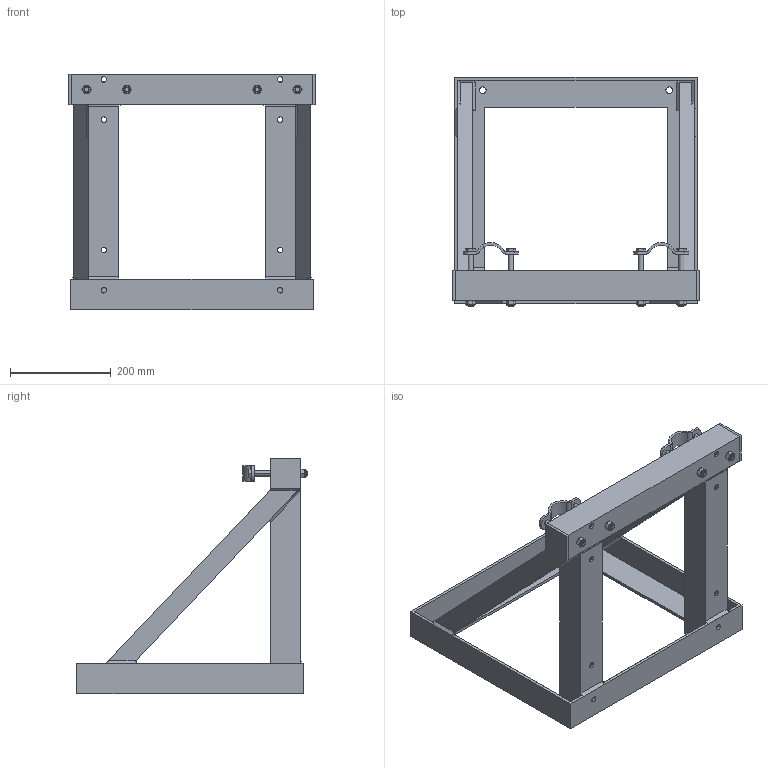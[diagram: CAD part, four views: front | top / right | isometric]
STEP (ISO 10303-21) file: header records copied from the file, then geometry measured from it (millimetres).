
FILE_DESCRIPTION((''),'2;1');
FILE_NAME('FM39_ALU_ASSEMBLEE_ASM','2019-04-24T',('Patrick'),(''),'PRO/ENGINEER BY PARAMETRIC TECHNOLOGY CORPORATION, 2016100','PRO/ENGINEER BY PARAMETRIC TECHNOLOGY CORPORATION, 2016100','');
FILE_SCHEMA(('CONFIG_CONTROL_DESIGN'));
Length unit declared in the file: millimetre
Products named in the file (10): CADRE_MURAL_FM39_ALU; TUBE_LATERAL_FM39_ALU; TUBE_AVANT_FM39_ALU; JAMBE-FORCE_FM39_ALU; FM39_ALU_SOUDEE_ASM; BR50-001; VIS_H_M10_X_110_26; ECROU_H_FR_M10; EMBOUT_ORA_EAD_60-60-4; FM39_ALU_ASSEMBLEE_ASM
Assembly tree (19 placements, depth 3):
  FM39_ALU_ASSEMBLEE_ASM
    FM39_ALU_SOUDEE_ASM
      CADRE_MURAL_FM39_ALU
      TUBE_LATERAL_FM39_ALU  x2
      TUBE_AVANT_FM39_ALU
      JAMBE-FORCE_FM39_ALU  x2
    BR50-001  x2
    VIS_H_M10_X_110_26  x4
    ECROU_H_FR_M10  x4
    EMBOUT_ORA_EAD_60-60-4  x2
Bounding box: 490 x 457 x 467 mm (x, y, z)
Volume: 2874592.6 mm3; surface area: 1368699.3 mm2
Topology: 18 solids, 65 shells, 485 faces, 1242 edges, 845 vertices
Faces by surface type: plane 257, cylinder 132, cone 88, torus 8
Entity records: 8181 total; most frequent: CARTESIAN_POINT 1642, DIRECTION 1356, ORIENTED_EDGE 1141, EDGE_CURVE 660, VERTEX_POINT 483, AXIS2_PLACEMENT_3D 455, VECTOR 446, LINE 446
